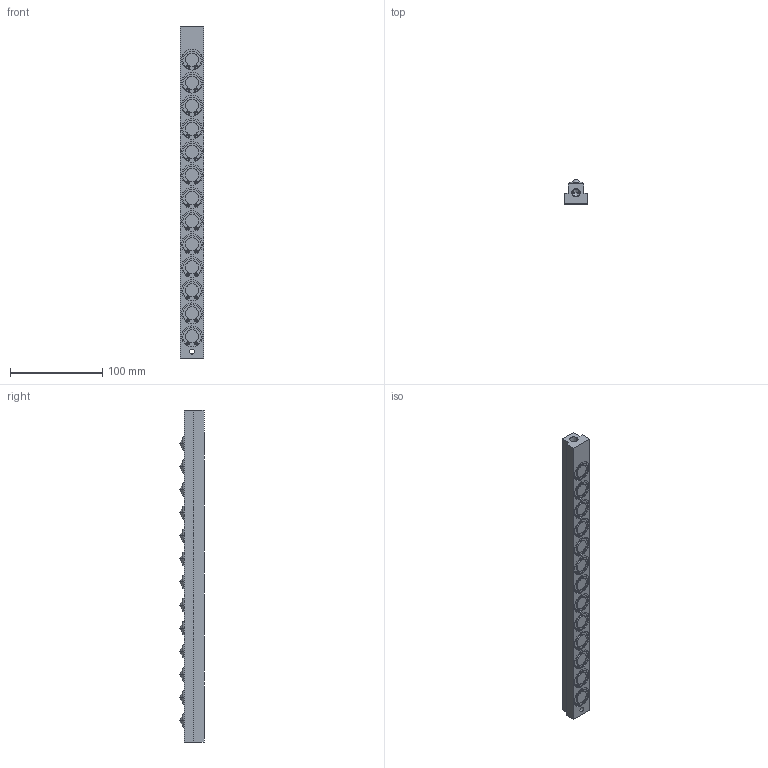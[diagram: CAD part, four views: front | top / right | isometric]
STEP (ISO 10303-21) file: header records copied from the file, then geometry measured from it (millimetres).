
FILE_DESCRIPTION (( 'STEP AP203' ), '1' );
FILE_NAME ('PVL13T-13.STEP', '2015-12-24T05:33:57', ( '' ), ( '' ), 'SwSTEP 2.0', 'SolidWorks 2013', '' );
FILE_SCHEMA (( 'CONFIG_CONTROL_DESIGN' ));
Length unit declared in the file: millimetre
Products named in the file (1): PVL13T-13
Bounding box: 25 x 26.26 x 360 mm (x, y, z)
Volume: 163875.8 mm3; surface area: 39157.7 mm2
Topology: 2 solids, 2 shells, 404 faces, 963 edges, 643 vertices
Faces by surface type: cylinder 218, plane 126, torus 26, sphere 26, cone 8
Entity records: 12090 total; most frequent: DIRECTION 2369, CARTESIAN_POINT 2007, ORIENTED_EDGE 1918, AXIS2_PLACEMENT_3D 1005, EDGE_CURVE 959, VERTEX_POINT 643, CIRCLE 600, EDGE_LOOP 490
